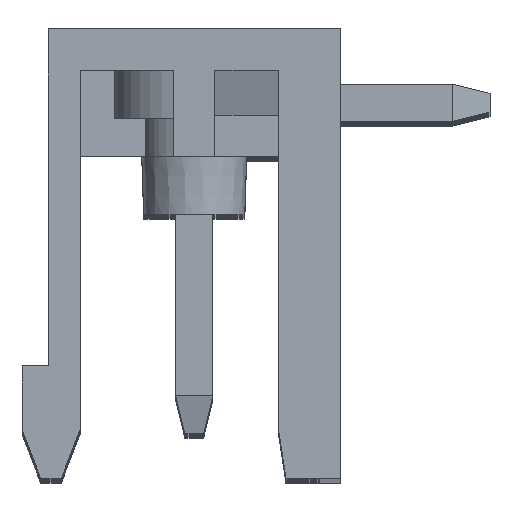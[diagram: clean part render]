
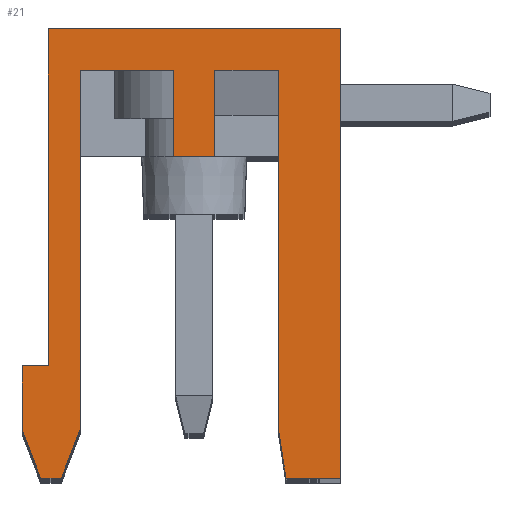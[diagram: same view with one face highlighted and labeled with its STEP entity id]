
A CAD part, top view. The second image highlights one B-rep face of the part: STEP entity #21.
In plain terms, the highlighted planar face has unit normal (0, 0, 1).
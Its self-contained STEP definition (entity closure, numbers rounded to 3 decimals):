
#21 = ADVANCED_FACE ( 'NONE', ( #21770 ), #7345, .T. ) ;
#339 = ORIENTED_EDGE ( 'NONE', *, *, #3757, .F. ) ;
#791 = CARTESIAN_POINT ( 'NONE',  ( -3.9, 3., 76.2 ) ) ;
#902 = VERTEX_POINT ( 'NONE', #24515 ) ;
#981 = DIRECTION ( 'NONE',  ( -1., 0., 0. ) ) ;
#1171 = DIRECTION ( 'NONE',  ( 1., 0., 0. ) ) ;
#1320 = CARTESIAN_POINT ( 'NONE',  ( -0.55, 10.9, 76.2 ) ) ;
#1794 = EDGE_CURVE ( 'NONE', #31787, #902, #11836, .T. ) ;
#1955 = ORIENTED_EDGE ( 'NONE', *, *, #4311, .T. ) ;
#2355 = CARTESIAN_POINT ( 'NONE',  ( 2.25, 10.9, 76.2 ) ) ;
#2541 = VECTOR ( 'NONE', #34976, 1000. ) ;
#3073 = LINE ( 'NONE', #11448, #13003 ) ;
#3285 = EDGE_CURVE ( 'NONE', #25897, #31787, #32663, .T. ) ;
#3757 = EDGE_CURVE ( 'NONE', #34897, #21301, #10608, .T. ) ;
#3996 = ORIENTED_EDGE ( 'NONE', *, *, #7140, .F. ) ;
#4027 = LINE ( 'NONE', #7455, #9246 ) ;
#4029 = VECTOR ( 'NONE', #30162, 1000. ) ;
#4297 = CARTESIAN_POINT ( 'NONE',  ( 3.9, 12., 76.2 ) ) ;
#4311 = EDGE_CURVE ( 'NONE', #9368, #25897, #3073, .T. ) ;
#5124 = ORIENTED_EDGE ( 'NONE', *, *, #28037, .F. ) ;
#5292 = CARTESIAN_POINT ( 'NONE',  ( 0.55, 8.6, 76.2 ) ) ;
#5328 = VERTEX_POINT ( 'NONE', #4297 ) ;
#5639 = LINE ( 'NONE', #11346, #23529 ) ;
#5745 = DIRECTION ( 'NONE',  ( 0., 1., 0. ) ) ;
#6250 = ORIENTED_EDGE ( 'NONE', *, *, #32592, .F. ) ;
#7071 = VERTEX_POINT ( 'NONE', #5292 ) ;
#7140 = EDGE_CURVE ( 'NONE', #10205, #36104, #26880, .T. ) ;
#7345 = PLANE ( 'NONE',  #20605 ) ;
#7398 = EDGE_CURVE ( 'NONE', #26202, #5328, #20726, .T. ) ;
#7455 = CARTESIAN_POINT ( 'NONE',  ( 2.45, 0., 76.2 ) ) ;
#7833 = VERTEX_POINT ( 'NONE', #19945 ) ;
#8488 = VERTEX_POINT ( 'NONE', #33911 ) ;
#9051 = CARTESIAN_POINT ( 'NONE',  ( 2.45, 0., 76.2 ) ) ;
#9246 = VECTOR ( 'NONE', #21299, 1000. ) ;
#9368 = VERTEX_POINT ( 'NONE', #16140 ) ;
#9466 = ORIENTED_EDGE ( 'NONE', *, *, #10768, .T. ) ;
#10205 = VERTEX_POINT ( 'NONE', #17164 ) ;
#10409 = EDGE_LOOP ( 'NONE', ( #25982, #22359, #1955, #27662, #17306, #5124, #26365, #3996, #6250, #339, #9466, #10798, #26398, #19519, #24159, #13740, #30743 ) ) ;
#10425 = CARTESIAN_POINT ( 'NONE',  ( 3.9, 12., 76.2 ) ) ;
#10534 = VECTOR ( 'NONE', #33382, 1000. ) ;
#10608 = LINE ( 'NONE', #33755, #10534 ) ;
#10617 = EDGE_CURVE ( 'NONE', #14026, #23971, #37228, .T. ) ;
#10768 = EDGE_CURVE ( 'NONE', #34897, #8488, #33762, .T. ) ;
#10798 = ORIENTED_EDGE ( 'NONE', *, *, #32988, .F. ) ;
#11346 = CARTESIAN_POINT ( 'NONE',  ( 2.25, 10.9, 76.2 ) ) ;
#11362 = LINE ( 'NONE', #36981, #30565 ) ;
#11448 = CARTESIAN_POINT ( 'NONE',  ( -3.9, 12., 76.2 ) ) ;
#11836 = LINE ( 'NONE', #34606, #2541 ) ;
#11877 = VECTOR ( 'NONE', #25281, 1000. ) ;
#12293 = LINE ( 'NONE', #29727, #34078 ) ;
#13003 = VECTOR ( 'NONE', #25853, 1000. ) ;
#13740 = ORIENTED_EDGE ( 'NONE', *, *, #10617, .T. ) ;
#13888 = VECTOR ( 'NONE', #33571, 1000. ) ;
#14026 = VERTEX_POINT ( 'NONE', #21699 ) ;
#14117 = VECTOR ( 'NONE', #16857, 1000. ) ;
#14634 = LINE ( 'NONE', #34924, #28969 ) ;
#14758 = VECTOR ( 'NONE', #981, 1000. ) ;
#14812 = VECTOR ( 'NONE', #35605, 1000. ) ;
#15016 = EDGE_CURVE ( 'NONE', #29549, #36104, #35511, .T. ) ;
#15451 = VECTOR ( 'NONE', #5745, 1000. ) ;
#15475 = EDGE_CURVE ( 'NONE', #5328, #9368, #36976, .T. ) ;
#16140 = CARTESIAN_POINT ( 'NONE',  ( -3.9, 12., 76.2 ) ) ;
#16340 = CARTESIAN_POINT ( 'NONE',  ( -3.9, 3., 76.2 ) ) ;
#16826 = LINE ( 'NONE', #22877, #27547 ) ;
#16857 = DIRECTION ( 'NONE',  ( -0.359, 0.933, 0. ) ) ;
#17164 = CARTESIAN_POINT ( 'NONE',  ( -3.05, 1.3, 76.2 ) ) ;
#17306 = ORIENTED_EDGE ( 'NONE', *, *, #1794, .T. ) ;
#18715 = EDGE_CURVE ( 'NONE', #7833, #33378, #12293, .T. ) ;
#19293 = DIRECTION ( 'NONE',  ( -1., 0., 0. ) ) ;
#19519 = ORIENTED_EDGE ( 'NONE', *, *, #18715, .T. ) ;
#19945 = CARTESIAN_POINT ( 'NONE',  ( 0.55, 10.9, 76.2 ) ) ;
#20315 = DIRECTION ( 'NONE',  ( 0., 1., 0. ) ) ;
#20605 = AXIS2_PLACEMENT_3D ( 'NONE', #21196, #24415, #32767 ) ;
#20726 = LINE ( 'NONE', #26416, #15451 ) ;
#21141 = EDGE_CURVE ( 'NONE', #7071, #7833, #14634, .T. ) ;
#21196 = CARTESIAN_POINT ( 'NONE',  ( -10.2, 16.267, 76.2 ) ) ;
#21299 = DIRECTION ( 'NONE',  ( 1., 0., 0. ) ) ;
#21301 = VERTEX_POINT ( 'NONE', #25919 ) ;
#21699 = CARTESIAN_POINT ( 'NONE',  ( 2.25, 1.3, 76.2 ) ) ;
#21770 = FACE_OUTER_BOUND ( 'NONE', #10409, .T. ) ;
#22359 = ORIENTED_EDGE ( 'NONE', *, *, #15475, .T. ) ;
#22688 = CARTESIAN_POINT ( 'NONE',  ( -4.6, 3., 76.2 ) ) ;
#22877 = CARTESIAN_POINT ( 'NONE',  ( 0.55, 8.6, 76.2 ) ) ;
#23529 = VECTOR ( 'NONE', #23648, 1000. ) ;
#23648 = DIRECTION ( 'NONE',  ( 0., -1., 0. ) ) ;
#23971 = VERTEX_POINT ( 'NONE', #9051 ) ;
#24159 = ORIENTED_EDGE ( 'NONE', *, *, #37431, .T. ) ;
#24415 = DIRECTION ( 'NONE',  ( 0., 0., 1. ) ) ;
#24515 = CARTESIAN_POINT ( 'NONE',  ( -4.6, 1.3, 76.2 ) ) ;
#25281 = DIRECTION ( 'NONE',  ( 0.152, -0.988, 0. ) ) ;
#25566 = CARTESIAN_POINT ( 'NONE',  ( -4.1, 0., 76.2 ) ) ;
#25829 = CARTESIAN_POINT ( 'NONE',  ( 2.25, 1.3, 76.2 ) ) ;
#25830 = CARTESIAN_POINT ( 'NONE',  ( 3.9, 0., 76.2 ) ) ;
#25853 = DIRECTION ( 'NONE',  ( 0., -1., 0. ) ) ;
#25897 = VERTEX_POINT ( 'NONE', #16340 ) ;
#25919 = CARTESIAN_POINT ( 'NONE',  ( -3.05, 10.9, 76.2 ) ) ;
#25982 = ORIENTED_EDGE ( 'NONE', *, *, #7398, .T. ) ;
#26202 = VERTEX_POINT ( 'NONE', #25830 ) ;
#26365 = ORIENTED_EDGE ( 'NONE', *, *, #15016, .T. ) ;
#26398 = ORIENTED_EDGE ( 'NONE', *, *, #21141, .T. ) ;
#26416 = CARTESIAN_POINT ( 'NONE',  ( 3.9, 0., 76.2 ) ) ;
#26880 = LINE ( 'NONE', #29916, #14812 ) ;
#27547 = VECTOR ( 'NONE', #19293, 1000. ) ;
#27631 = CARTESIAN_POINT ( 'NONE',  ( -4.1, 0., 76.2 ) ) ;
#27662 = ORIENTED_EDGE ( 'NONE', *, *, #3285, .T. ) ;
#28037 = EDGE_CURVE ( 'NONE', #29549, #902, #34113, .T. ) ;
#28065 = DIRECTION ( 'NONE',  ( 0., -1., 0. ) ) ;
#28969 = VECTOR ( 'NONE', #20315, 1000. ) ;
#29171 = DIRECTION ( 'NONE',  ( 1., 0., 0. ) ) ;
#29549 = VERTEX_POINT ( 'NONE', #27631 ) ;
#29673 = EDGE_CURVE ( 'NONE', #23971, #26202, #4027, .T. ) ;
#29727 = CARTESIAN_POINT ( 'NONE',  ( 0.55, 10.9, 76.2 ) ) ;
#29916 = CARTESIAN_POINT ( 'NONE',  ( -3.05, 1.3, 76.2 ) ) ;
#30162 = DIRECTION ( 'NONE',  ( 0., -1., 0. ) ) ;
#30565 = VECTOR ( 'NONE', #28065, 1000. ) ;
#30743 = ORIENTED_EDGE ( 'NONE', *, *, #29673, .T. ) ;
#31787 = VERTEX_POINT ( 'NONE', #22688 ) ;
#32592 = EDGE_CURVE ( 'NONE', #21301, #10205, #11362, .T. ) ;
#32663 = LINE ( 'NONE', #791, #14758 ) ;
#32767 = DIRECTION ( 'NONE',  ( 1., 0., 0. ) ) ;
#32988 = EDGE_CURVE ( 'NONE', #7071, #8488, #16826, .T. ) ;
#33378 = VERTEX_POINT ( 'NONE', #2355 ) ;
#33382 = DIRECTION ( 'NONE',  ( -1., 0., 0. ) ) ;
#33571 = DIRECTION ( 'NONE',  ( -1., 0., 0. ) ) ;
#33755 = CARTESIAN_POINT ( 'NONE',  ( -0.55, 10.9, 76.2 ) ) ;
#33762 = LINE ( 'NONE', #1320, #4029 ) ;
#33911 = CARTESIAN_POINT ( 'NONE',  ( -0.55, 8.6, 76.2 ) ) ;
#33963 = CARTESIAN_POINT ( 'NONE',  ( -0.55, 10.9, 76.2 ) ) ;
#34078 = VECTOR ( 'NONE', #29171, 1000. ) ;
#34113 = LINE ( 'NONE', #25566, #14117 ) ;
#34527 = CARTESIAN_POINT ( 'NONE',  ( -3.55, 0., 76.2 ) ) ;
#34606 = CARTESIAN_POINT ( 'NONE',  ( -4.6, 3., 76.2 ) ) ;
#34897 = VERTEX_POINT ( 'NONE', #33963 ) ;
#34924 = CARTESIAN_POINT ( 'NONE',  ( 0.55, 8.6, 76.2 ) ) ;
#34976 = DIRECTION ( 'NONE',  ( 0., -1., 0. ) ) ;
#35511 = LINE ( 'NONE', #35698, #36900 ) ;
#35605 = DIRECTION ( 'NONE',  ( -0.359, -0.933, 0. ) ) ;
#35698 = CARTESIAN_POINT ( 'NONE',  ( -4.1, 0., 76.2 ) ) ;
#36104 = VERTEX_POINT ( 'NONE', #34527 ) ;
#36900 = VECTOR ( 'NONE', #1171, 1000. ) ;
#36976 = LINE ( 'NONE', #10425, #13888 ) ;
#36981 = CARTESIAN_POINT ( 'NONE',  ( -3.05, 10.9, 76.2 ) ) ;
#37228 = LINE ( 'NONE', #25829, #11877 ) ;
#37431 = EDGE_CURVE ( 'NONE', #33378, #14026, #5639, .T. ) ;
